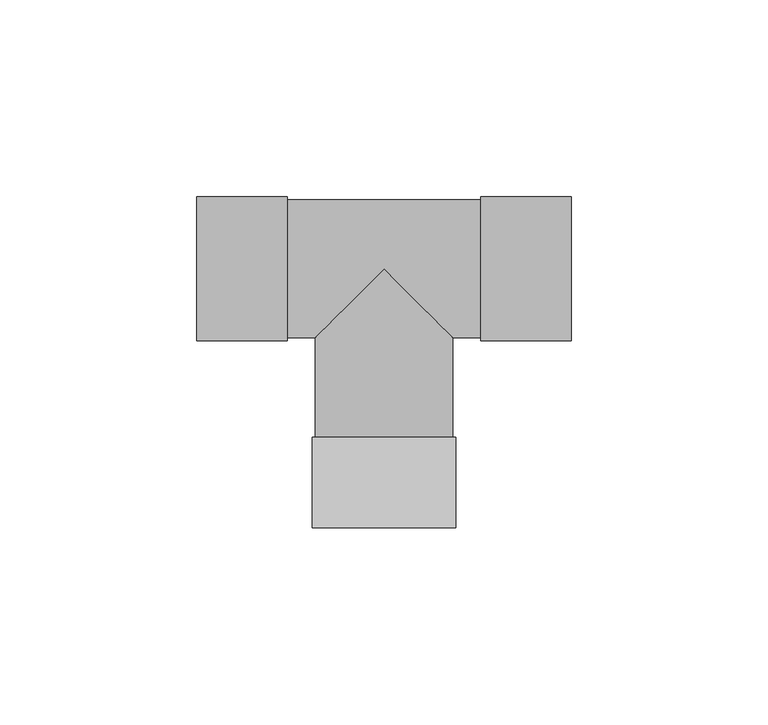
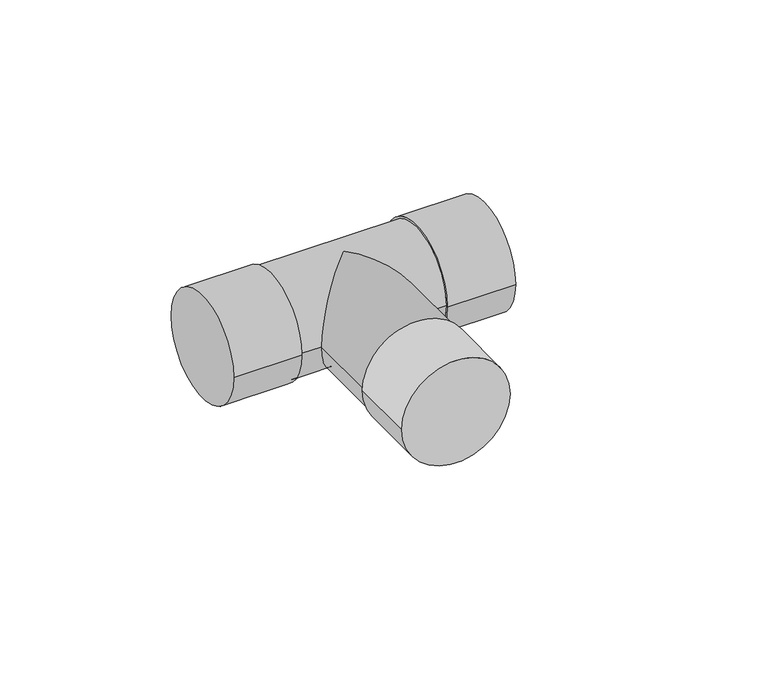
"""IFC4 building model written with IfcOpenShell, lengths in millimetres: pipe fitting geometry, Tê - Soldado - CU : Padrão."""

from ifc_helpers import new_model, si_unit, frame, origin, place, context, project, spatial, circle_curve, ellipse_curve, source, transform, mapped, element, save
from ifc_brep_helpers import plane_surface, cylinder_surface, advanced_brep


def pipe_fitting_f6448261(model_context):
    return source(origin(), model_context, "Body", "AdvancedBrep", [
        advanced_brep(
        [(18.2811672, -65.7996757, 0.0), (-18.2788328, -65.8003242, 0.0), (18.2807592, -42.7996757, 0.0), (-18.2792408, -42.8003242, 0.0), (17.5007592, -42.7996896, 0.0), (-17.4992408, -42.8003104, 0.0), (-47.55, -18.28, 0.0), (-47.55, 18.28, 0.0), (-24.55, -18.28, 0.0), (-24.55, 18.28, 0.0), (-24.55, -17.5, 0.0), (-24.55, 17.5, 0.0), (24.55, 17.5, 0.0), (-17.4996896, -17.5, 0.0), (0.0, 0.0, 17.5), (17.5003104, -17.5, 0.0), (24.55, -17.5, 0.0), (0.0, 0.0, -17.5), (24.55, -18.28, 0.0), (24.55, 18.28, 0.0), (47.55, -18.28, 0.0), (47.55, 18.28, 0.0)],
        [
            (0, 1, circle_curve(frame((0.0011672, -65.8, 0.0), z_axis=(1.7738146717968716e-05, -0.9999999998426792, 0.0), x_axis=(-0.9999999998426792, -1.7738146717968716e-05, 0.0)), 18.28)),
            (1, 0, circle_curve(frame((0.0011672, -65.8, 0.0), z_axis=(1.7738146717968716e-05, -0.9999999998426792, 0.0), x_axis=(-0.9999999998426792, -1.7738146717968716e-05, 0.0)), 18.28)),
            (2, 3, circle_curve(frame((0.0007592, -42.8, 0.0), z_axis=(-1.7738146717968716e-05, 0.9999999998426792, 0.0), x_axis=(-0.9999999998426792, -1.7738146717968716e-05, 0.0)), 18.28)),
            (3, 2, circle_curve(frame((0.0007592, -42.8, 0.0), z_axis=(-1.7738146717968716e-05, 0.9999999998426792, 0.0), x_axis=(-0.9999999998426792, -1.7738146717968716e-05, 0.0)), 18.28)),
            (4, 5, circle_curve(frame((0.0007592, -42.8, 0.0), z_axis=(1.7738146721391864e-05, -0.9999999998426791, 0.0), x_axis=(0.9999999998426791, 1.7738146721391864e-05, 0.0)), 17.5)),
            (5, 4, circle_curve(frame((0.0007592, -42.8, 0.0), z_axis=(1.7738146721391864e-05, -0.9999999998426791, 0.0), x_axis=(0.9999999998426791, 1.7738146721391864e-05, 0.0)), 17.5)),
            (0, 2),
            (3, 1),
            (6, 7, circle_curve(frame((-47.55, 0.0, 0.0), z_axis=(-1.0, 0.0, 0.0), x_axis=(0.0, 1.0, 0.0)), 18.28)),
            (7, 6, circle_curve(frame((-47.55, 0.0, 0.0), z_axis=(-1.0, 0.0, 0.0), x_axis=(0.0, 1.0, 0.0)), 18.28)),
            (8, 9, circle_curve(frame((-24.55, 0.0, 0.0), z_axis=(1.0, 0.0, 0.0), x_axis=(0.0, 1.0, 0.0)), 18.28)),
            (9, 8, circle_curve(frame((-24.55, 0.0, 0.0), z_axis=(1.0, 0.0, 0.0), x_axis=(0.0, 1.0, 0.0)), 18.28)),
            (10, 11, circle_curve(frame((-24.55, 0.0, 0.0), z_axis=(-1.0, 0.0, 0.0), x_axis=(0.0, 1.0, 0.0)), 17.5)),
            (11, 10, circle_curve(frame((-24.55, 0.0, 0.0), z_axis=(-1.0, 0.0, 0.0), x_axis=(0.0, 1.0, 0.0)), 17.5)),
            (6, 8),
            (9, 7),
            (12, 11),
            (10, 13),
            (13, 14, ellipse_curve(frame((0.0, 0.0, 0.0), z_axis=(-0.7071130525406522, 0.7071005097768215, 0.0), x_axis=(-0.7071005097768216, -0.7071130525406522, 0.0)), 24.7485178, 17.5)),
            (14, 15, ellipse_curve(frame((0.0, 0.0, 0.0), z_axis=(0.7071005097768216, 0.7071130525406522, 0.0), x_axis=(-0.7071130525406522, 0.7071005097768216, 0.0)), 24.7489568, 17.5)),
            (15, 16),
            (16, 12, circle_curve(frame((24.55, 0.0, 0.0), z_axis=(-1.0, 0.0, 0.0), x_axis=(0.0, 1.0, 0.0)), 17.5)),
            (12, 16, circle_curve(frame((24.55, 0.0, 0.0), z_axis=(-1.0, 0.0, 0.0), x_axis=(0.0, 1.0, 0.0)), 17.5)),
            (15, 17, ellipse_curve(frame((0.0, 0.0, 0.0), z_axis=(0.7071005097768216, 0.7071130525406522, 0.0), x_axis=(-0.7071130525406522, 0.7071005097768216, 0.0)), 24.7489568, 17.5)),
            (17, 13, ellipse_curve(frame((0.0, 0.0, 0.0), z_axis=(-0.7071130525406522, 0.7071005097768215, 0.0), x_axis=(-0.7071005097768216, -0.7071130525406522, 0.0)), 24.7485178, 17.5)),
            (18, 19, circle_curve(frame((24.55, 0.0, 0.0), z_axis=(-1.0, 0.0, 0.0), x_axis=(0.0, 1.0, 0.0)), 18.28)),
            (19, 18, circle_curve(frame((24.55, 0.0, 0.0), z_axis=(-1.0, 0.0, 0.0), x_axis=(0.0, 1.0, 0.0)), 18.28)),
            (20, 21, circle_curve(frame((47.55, 0.0, 0.0), z_axis=(1.0, 0.0, 0.0), x_axis=(0.0, 1.0, 0.0)), 18.28)),
            (21, 20, circle_curve(frame((47.55, 0.0, 0.0), z_axis=(1.0, 0.0, 0.0), x_axis=(0.0, 1.0, 0.0)), 18.28)),
            (18, 20),
            (21, 19),
            (4, 15),
            (13, 5),
        ],
        [
            plane_surface(frame((0.0011672, -65.8, 0.0), z_axis=(1.7738146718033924e-05, -0.9999999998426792, 0.0), x_axis=(0.0, 0.0, 1.0))),
            plane_surface(frame((0.0007592, -42.8, 0.0), z_axis=(-1.7738146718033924e-05, 0.9999999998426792, 0.0), x_axis=(0.0, 0.0, 1.0))),
            cylinder_surface(frame((0.0011672, -65.8, 0.0), z_axis=(1.7738146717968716e-05, -0.9999999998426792, 0.0), x_axis=(-0.9999999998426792, -1.7738146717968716e-05, 0.0)), 18.28),
            plane_surface(frame((-47.55, 0.0, 0.0), z_axis=(-1.0, 0.0, 0.0), x_axis=(0.0, 0.0, 1.0))),
            plane_surface(frame((-24.55, 0.0, 0.0), z_axis=(1.0, 0.0, 0.0), x_axis=(0.0, 0.0, 1.0))),
            cylinder_surface(frame((-47.55, 0.0, 0.0), z_axis=(-1.0, 0.0, 0.0), x_axis=(0.0, 1.0, 0.0)), 18.28),
            cylinder_surface(frame((-24.55, 0.0, 0.0), z_axis=(-1.0, 0.0, 0.0), x_axis=(0.0, 1.0, 0.0)), 17.5),
            plane_surface(frame((24.55, 0.0, 0.0), z_axis=(-1.0, 0.0, 0.0), x_axis=(0.0, 0.0, 1.0))),
            plane_surface(frame((47.55, 0.0, 0.0), z_axis=(1.0, 0.0, 0.0), x_axis=(0.0, 0.0, 1.0))),
            cylinder_surface(frame((24.55, 0.0, 0.0), z_axis=(-1.0, 0.0, 0.0), x_axis=(0.0, 1.0, 0.0)), 18.28),
            cylinder_surface(frame((0.0, 0.0, 0.0), z_axis=(-1.7738146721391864e-05, 0.9999999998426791, 0.0), x_axis=(0.9999999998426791, 1.7738146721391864e-05, 0.0)), 17.5),
        ],
        [
            (0, [[1, 2]]),
            (1, [[3, 4], [5, 6]]),
            (2, [[-1, 7, -4, 8]]),
            (2, [[-2, -8, -3, -7]]),
            (3, [[9, 10]]),
            (4, [[11, 12], [13, 14]]),
            (5, [[-9, 15, -12, 16]]),
            (5, [[-10, -16, -11, -15]]),
            (6, [[17, -13, 18, 19, 20, 21, 22]]),
            (6, [[-17, 23, -21, 24, 25, -18, -14]]),
            (7, [[26, 27], [-22, -23]]),
            (8, [[28, 29]]),
            (9, [[-26, 30, -29, 31]]),
            (9, [[-27, -31, -28, -30]]),
            (10, [[32, -20, -19, 33, -5]]),
            (10, [[-32, -6, -33, -25, -24]]),
        ],
    ),
    ])


if __name__ == "__main__":
    model = new_model("IFC4")
    model_context = context("Model", 3, world=origin())
    ifc_project = project(units=[si_unit("LENGTHUNIT", "METRE", prefix="MILLI")], contexts=[model_context])
    site = spatial("IfcSite", under=ifc_project)
    building = spatial("IfcBuilding", under=site)
    placement = place(None, origin())
    pipe_fitting_shape = pipe_fitting_f6448261(model_context)
    element("IfcPipeFitting", 1, ObjectType="Tê - Soldado - CU : Padrão", at=placement, inside=building, context=model_context, shape_type="MappedRepresentation", body=[
        mapped(pipe_fitting_shape, transform((0.0, 0.0, 0.0), x_axis=(1.0, 0.0, 0.0), y_axis=(0.0, 1.0, 0.0), z_axis=(0.0, 0.0, 1.0))),
    ])
    save(model, "model.ifc")
